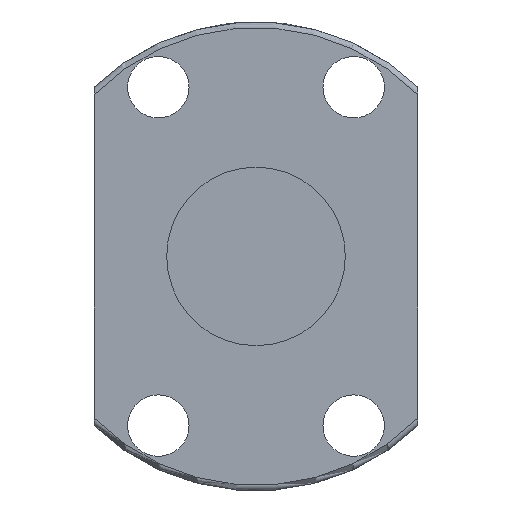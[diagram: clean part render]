
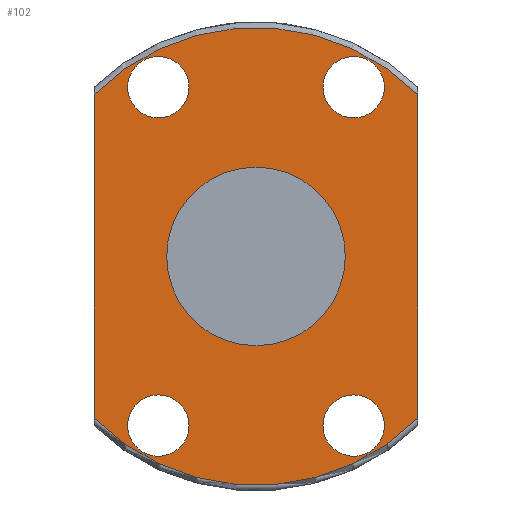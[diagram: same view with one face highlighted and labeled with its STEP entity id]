
A CAD part, front view. The second image highlights one B-rep face of the part: STEP entity #102.
In plain terms, the highlighted planar face has unit normal (0, -1, 0).
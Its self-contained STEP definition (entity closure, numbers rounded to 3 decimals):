
#79=PLANE('',#529);
#102=ADVANCED_FACE('',(#139,#140,#141,#142,#143),#79,.F.);
#139=FACE_BOUND('',#171,.T.);
#140=FACE_BOUND('',#172,.T.);
#141=FACE_BOUND('',#173,.T.);
#142=FACE_BOUND('',#174,.T.);
#143=FACE_BOUND('',#175,.T.);
#171=EDGE_LOOP('',(#281));
#172=EDGE_LOOP('',(#282));
#173=EDGE_LOOP('',(#283));
#174=EDGE_LOOP('',(#284));
#175=EDGE_LOOP('',(#285,#286,#287,#288));
#241=LINE('',#763,#252);
#242=LINE('',#768,#253);
#252=VECTOR('',#607,1.);
#253=VECTOR('',#610,1.);
#281=ORIENTED_EDGE('',*,*,#446,.F.);
#282=ORIENTED_EDGE('',*,*,#447,.F.);
#283=ORIENTED_EDGE('',*,*,#448,.F.);
#284=ORIENTED_EDGE('',*,*,#449,.F.);
#285=ORIENTED_EDGE('',*,*,#450,.T.);
#286=ORIENTED_EDGE('',*,*,#451,.T.);
#287=ORIENTED_EDGE('',*,*,#452,.F.);
#288=ORIENTED_EDGE('',*,*,#453,.T.);
#401=VERTEX_POINT('',#756);
#402=VERTEX_POINT('',#758);
#403=VERTEX_POINT('',#760);
#404=VERTEX_POINT('',#762);
#405=VERTEX_POINT('',#764);
#406=VERTEX_POINT('',#765);
#407=VERTEX_POINT('',#767);
#408=VERTEX_POINT('',#769);
#446=EDGE_CURVE('',#401,#401,#494,.T.);
#447=EDGE_CURVE('',#402,#402,#495,.T.);
#448=EDGE_CURVE('',#403,#403,#496,.T.);
#449=EDGE_CURVE('',#404,#404,#497,.T.);
#450=EDGE_CURVE('',#405,#406,#241,.T.);
#451=EDGE_CURVE('',#406,#407,#498,.T.);
#452=EDGE_CURVE('',#408,#407,#242,.T.);
#453=EDGE_CURVE('',#408,#405,#499,.T.);
#494=CIRCLE('',#523,2.75);
#495=CIRCLE('',#524,2.75);
#496=CIRCLE('',#525,2.75);
#497=CIRCLE('',#526,2.75);
#498=CIRCLE('',#527,20.5);
#499=CIRCLE('',#528,20.5);
#523=AXIS2_PLACEMENT_3D('',#755,#599,#600);
#524=AXIS2_PLACEMENT_3D('',#757,#601,#602);
#525=AXIS2_PLACEMENT_3D('',#759,#603,#604);
#526=AXIS2_PLACEMENT_3D('',#761,#605,#606);
#527=AXIS2_PLACEMENT_3D('',#766,#608,#609);
#528=AXIS2_PLACEMENT_3D('',#770,#611,#612);
#529=AXIS2_PLACEMENT_3D('',#771,#613,#614);
#599=DIRECTION('',(0.,-1.,0.));
#600=DIRECTION('',(0.,0.,1.));
#601=DIRECTION('',(0.,-1.,0.));
#602=DIRECTION('',(0.,0.,1.));
#603=DIRECTION('',(0.,-1.,0.));
#604=DIRECTION('',(0.,0.,1.));
#605=DIRECTION('',(0.,-1.,0.));
#606=DIRECTION('',(0.,0.,1.));
#607=DIRECTION('',(0.,0.,-1.));
#608=DIRECTION('',(0.,-1.,0.));
#609=DIRECTION('',(0.,0.,1.));
#610=DIRECTION('',(0.,0.,-1.));
#611=DIRECTION('',(0.,-1.,0.));
#612=DIRECTION('',(0.,0.,1.));
#613=DIRECTION('',(0.,1.,0.));
#614=DIRECTION('',(0.,0.,1.));
#755=CARTESIAN_POINT('',(8.75,-40.,15.155));
#756=CARTESIAN_POINT('',(8.75,-40.,17.905));
#757=CARTESIAN_POINT('',(-8.75,-40.,15.155));
#758=CARTESIAN_POINT('',(-8.75,-40.,17.905));
#759=CARTESIAN_POINT('',(-8.75,-40.,-15.155));
#760=CARTESIAN_POINT('',(-8.75,-40.,-12.405));
#761=CARTESIAN_POINT('',(8.75,-40.,-15.155));
#762=CARTESIAN_POINT('',(8.75,-40.,-12.405));
#763=CARTESIAN_POINT('',(-14.5,-40.,21.));
#764=CARTESIAN_POINT('',(-14.5,-40.,14.491));
#765=CARTESIAN_POINT('',(-14.5,-40.,-14.491));
#766=CARTESIAN_POINT('',(0.,-40.,0.));
#767=CARTESIAN_POINT('',(14.5,-40.,-14.491));
#768=CARTESIAN_POINT('',(14.5,-40.,21.));
#769=CARTESIAN_POINT('',(14.5,-40.,14.491));
#770=CARTESIAN_POINT('',(0.,-40.,0.));
#771=CARTESIAN_POINT('',(0.,-40.,21.));
